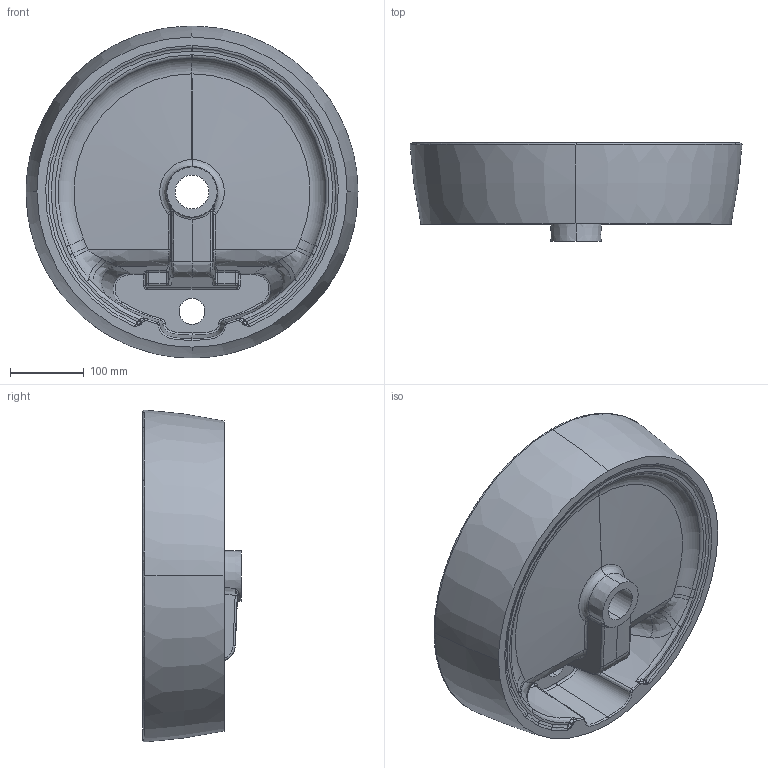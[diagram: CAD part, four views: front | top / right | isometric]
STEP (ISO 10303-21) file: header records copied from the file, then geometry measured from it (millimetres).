
FILE_DESCRIPTION (( 'STEP AP203' ), '1' );
FILE_NAME ('LP146-00SM00E-0000.STEP', '2023-01-17T11:39:44', ( '' ), ( '' ), 'SwSTEP 2.0', 'SolidWorks 2021', '' );
FILE_SCHEMA (( 'CONFIG_CONTROL_DESIGN' ));
Length unit declared in the file: millimetre
Products named in the file (1): LP146-00SM00E-0000
Bounding box: 449.66 x 133.29 x 449.65 mm (x, y, z)
Volume: 4799353.3 mm3; surface area: 613762 mm2
Topology: 2 solids, 2 shells, 265 faces, 636 edges, 363 vertices
Faces by surface type: bspline 110, cylinder 41, plane 37, torus 36, cone 35, sphere 6
Entity records: 16740 total; most frequent: CARTESIAN_POINT 11456, ORIENTED_EDGE 1248, DIRECTION 889, EDGE_CURVE 624, AXIS2_PLACEMENT_3D 380, VERTEX_POINT 365, EDGE_LOOP 273, FACE_OUTER_BOUND 265
